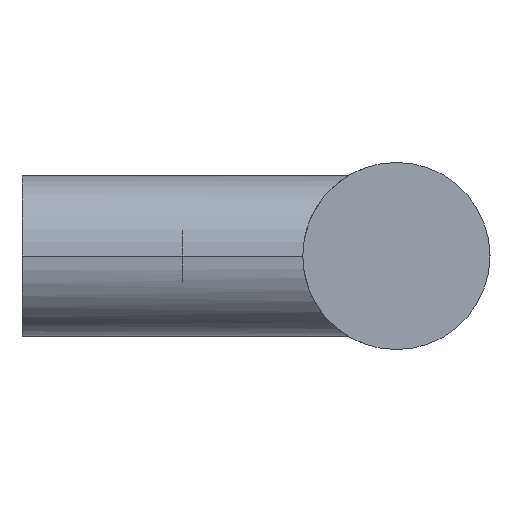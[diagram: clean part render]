
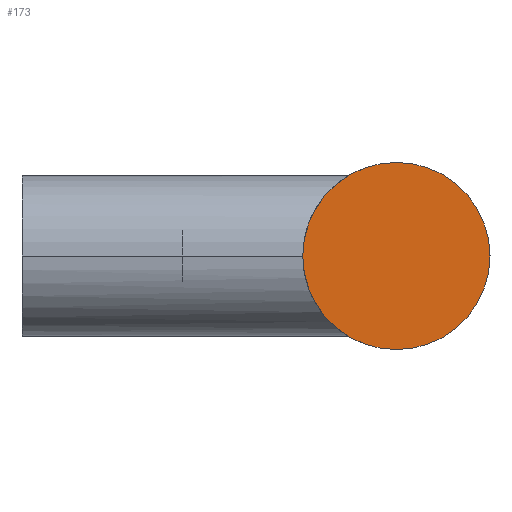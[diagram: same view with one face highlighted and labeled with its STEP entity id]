
A CAD part, left-side view. The second image highlights one B-rep face of the part: STEP entity #173.
In plain terms, the highlighted planar face has unit normal (-1, 0, 0).
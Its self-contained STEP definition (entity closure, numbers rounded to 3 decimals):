
#139 = VERTEX_POINT( '', #356 );
#157 = EDGE_CURVE( '', #165, #139, #377, .T. );
#165 = VERTEX_POINT( '', #386 );
#173 = ADVANCED_FACE( '', ( #394 ), #395, .F. );
#267 = EDGE_CURVE( '', #139, #165, #502, .T. );
#356 = CARTESIAN_POINT( '', ( -30., -28., -7. ) );
#377 = CIRCLE( '', #635, 7. );
#386 = CARTESIAN_POINT( '', ( -30., -28., 7. ) );
#394 = FACE_OUTER_BOUND( '', #654, .T. );
#395 = PLANE( '', #655 );
#502 = CIRCLE( '', #897, 7. );
#635 = AXIS2_PLACEMENT_3D( '', #1108, #1109, #1110 );
#654 = EDGE_LOOP( '', ( #1126, #1127 ) );
#655 = AXIS2_PLACEMENT_3D( '', #1128, #1129, #1130 );
#897 = AXIS2_PLACEMENT_3D( '', #1261, #1262, #1263 );
#1108 = CARTESIAN_POINT( '', ( -30., -28., 0. ) );
#1109 = DIRECTION( '', ( 1., 0., 0. ) );
#1110 = DIRECTION( '', ( 0., 0., -1. ) );
#1126 = ORIENTED_EDGE( '', *, *, #267, .F. );
#1127 = ORIENTED_EDGE( '', *, *, #157, .F. );
#1128 = CARTESIAN_POINT( '', ( -30., 0., 0. ) );
#1129 = DIRECTION( '', ( 1., 0., 0. ) );
#1130 = DIRECTION( '', ( 0., 0., -1. ) );
#1261 = CARTESIAN_POINT( '', ( -30., -28., 0. ) );
#1262 = DIRECTION( '', ( 1., 0., 0. ) );
#1263 = DIRECTION( '', ( 0., 0., -1. ) );
